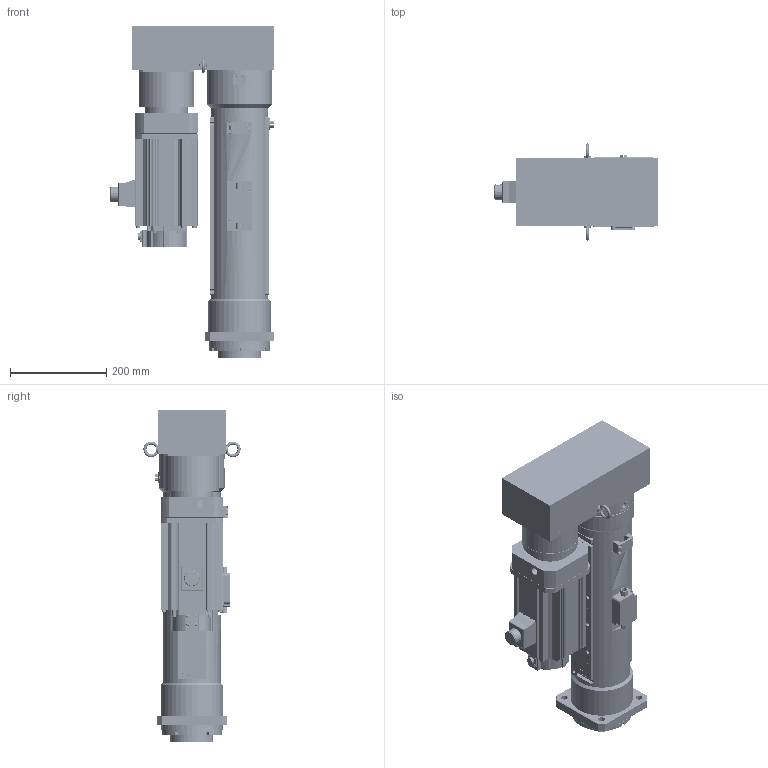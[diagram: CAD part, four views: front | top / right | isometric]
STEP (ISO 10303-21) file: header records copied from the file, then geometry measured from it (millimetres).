
FILE_DESCRIPTION( ('This file contains a STEP AP42 implementation' ,'as created by ZW3D STEP Interface translator.') ,'2;1' );
FILE_NAME( 'OACIS-DC-P035-P040-300-180-A6V200_V20.51.stp' ,'26 423.172659', (''), ('ZWCAD Software Co.'), 'Version 1.0', 'ZW3D to STEP translator', '' );
FILE_SCHEMA(('AUTOMOTIVE_DESIGN { 1 0 10303 214 1 1 1 1 }'));
Length unit declared in the file: millimetre
Products named in the file (1): 0
Bounding box: 342.5 x 202.25 x 691 mm (x, y, z)
Volume: 12437340.9 mm3; surface area: 2021842.6 mm2
Topology: 55 solids, 55 shells, 3418 faces, 8757 edges, 5604 vertices
Faces by surface type: cylinder 1691, plane 1243, cone 351, torus 101, bspline 28, sphere 4
Full cylindrical faces by diameter (mm): 1.567 x4, 2 x1, 2.459 x1, 3.3 x83, 4.2 x4, 4.3 x26, 4.5 x14, 4.917 x20, 5 x1, 5.3 x4, 5.5 x4, 6 x8, 6.5 x4, 6.647 x6, 6.8 x41, 7 x4, 8 x28, 8.4 x8, 8.5 x4, 9 x26, 9.5 x4, 9.78 x8, 10 x3, 10.1 x4, 10.106 x1, 10.2 x16, 10.5 x4, 12 x1, 14 x4, 14.8 x1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
Entity records: 121963 total; most frequent: CARTESIAN_POINT 29143, DIRECTION 19447, ORIENTED_EDGE 17302, EDGE_CURVE 8651, AXIS2_PLACEMENT_3D 7748, VERTEX_POINT 5601, CIRCLE 4338, EDGE_LOOP 4064
